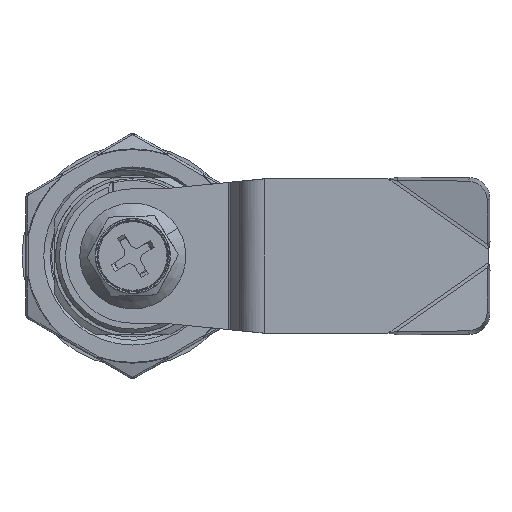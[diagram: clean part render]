
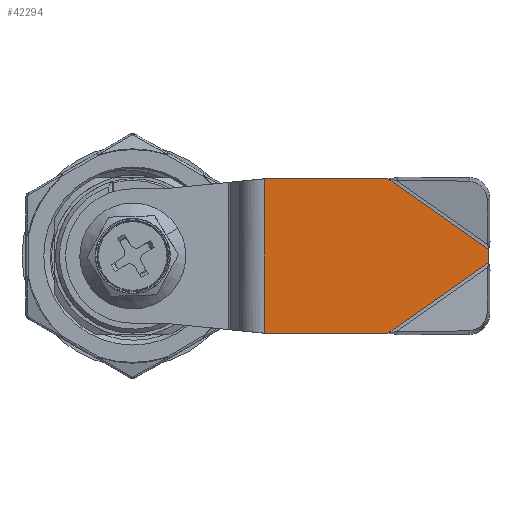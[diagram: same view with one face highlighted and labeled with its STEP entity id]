
A CAD part, front view. The second image highlights one B-rep face of the part: STEP entity #42294.
In plain terms, the highlighted planar face has unit normal (0, -1, 0).
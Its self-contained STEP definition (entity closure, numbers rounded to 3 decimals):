
#11 = LINE ( 'NONE', #3792, #5319 ) ;
#2429 = CARTESIAN_POINT ( 'NONE',  ( 32.252, -10., 9.75 ) ) ;
#2721 = VECTOR ( 'NONE', #26994, 1000. ) ;
#3792 = CARTESIAN_POINT ( 'NONE',  ( 16.621, -10., 9.75 ) ) ;
#3825 = VECTOR ( 'NONE', #17358, 1000. ) ;
#4823 = VERTEX_POINT ( 'NONE', #30909 ) ;
#5319 = VECTOR ( 'NONE', #32278, 1000. ) ;
#5801 = CARTESIAN_POINT ( 'NONE',  ( 49.968, -10., 2.655 ) ) ;
#7441 = VERTEX_POINT ( 'NONE', #30949 ) ;
#8254 = EDGE_CURVE ( 'NONE', #9456, #49539, #21731, .T. ) ;
#9456 = VERTEX_POINT ( 'NONE', #27553 ) ;
#10049 = ORIENTED_EDGE ( 'NONE', *, *, #14010, .F. ) ;
#10199 = DIRECTION ( 'NONE',  ( -1., 0., 0. ) ) ;
#12907 = CARTESIAN_POINT ( 'NONE',  ( 45., -10., 9.75 ) ) ;
#14010 = EDGE_CURVE ( 'NONE', #9456, #7441, #17339, .T. ) ;
#14629 = LINE ( 'NONE', #18925, #2721 ) ;
#16625 = VECTOR ( 'NONE', #50459, 1000. ) ;
#17339 = LINE ( 'NONE', #33209, #33466 ) ;
#17358 = DIRECTION ( 'NONE',  ( -0.819, 0., -0.574 ) ) ;
#18003 = DIRECTION ( 'NONE',  ( 1., 0., 0. ) ) ;
#18925 = CARTESIAN_POINT ( 'NONE',  ( 45., -10., 9.75 ) ) ;
#21208 = ORIENTED_EDGE ( 'NONE', *, *, #42102, .T. ) ;
#21731 = LINE ( 'NONE', #34102, #16625 ) ;
#23824 = EDGE_CURVE ( 'NONE', #7441, #4823, #38308, .T. ) ;
#24734 = VECTOR ( 'NONE', #10199, 1000. ) ;
#25931 = AXIS2_PLACEMENT_3D ( 'NONE', #12907, #50758, #18003 ) ;
#26505 = CARTESIAN_POINT ( 'NONE',  ( 16.621, -10., -9.75 ) ) ;
#26687 = ORIENTED_EDGE ( 'NONE', *, *, #46490, .F. ) ;
#26994 = DIRECTION ( 'NONE',  ( -1., 0., 0. ) ) ;
#27553 = CARTESIAN_POINT ( 'NONE',  ( 45., -10., 0.824 ) ) ;
#28824 = VERTEX_POINT ( 'NONE', #26505 ) ;
#30909 = CARTESIAN_POINT ( 'NONE',  ( 32.252, -10., -9.75 ) ) ;
#30949 = CARTESIAN_POINT ( 'NONE',  ( 45., -10., -0.824 ) ) ;
#31813 = CARTESIAN_POINT ( 'NONE',  ( 16.621, -10., 9.75 ) ) ;
#32278 = DIRECTION ( 'NONE',  ( 0., 0., -1. ) ) ;
#33209 = CARTESIAN_POINT ( 'NONE',  ( 45., -10., 9.75 ) ) ;
#33466 = VECTOR ( 'NONE', #46337, 1000. ) ;
#34102 = CARTESIAN_POINT ( 'NONE',  ( 40.806, -10., 3.76 ) ) ;
#34395 = PLANE ( 'NONE',  #25931 ) ;
#36544 = VERTEX_POINT ( 'NONE', #31813 ) ;
#38308 = LINE ( 'NONE', #5801, #3825 ) ;
#38400 = LINE ( 'NONE', #51823, #24734 ) ;
#39796 = EDGE_LOOP ( 'NONE', ( #10049, #48767, #45459, #21208, #26687, #41542 ) ) ;
#40991 = EDGE_CURVE ( 'NONE', #49539, #36544, #14629, .T. ) ;
#41542 = ORIENTED_EDGE ( 'NONE', *, *, #23824, .F. ) ;
#41650 = FACE_OUTER_BOUND ( 'NONE', #39796, .T. ) ;
#42102 = EDGE_CURVE ( 'NONE', #36544, #28824, #11, .T. ) ;
#42294 = ADVANCED_FACE ( 'NONE', ( #41650 ), #34395, .T. ) ;
#45459 = ORIENTED_EDGE ( 'NONE', *, *, #40991, .T. ) ;
#46337 = DIRECTION ( 'NONE',  ( 0., 0., -1. ) ) ;
#46490 = EDGE_CURVE ( 'NONE', #4823, #28824, #38400, .T. ) ;
#48767 = ORIENTED_EDGE ( 'NONE', *, *, #8254, .T. ) ;
#49539 = VERTEX_POINT ( 'NONE', #2429 ) ;
#50459 = DIRECTION ( 'NONE',  ( -0.819, 0., 0.574 ) ) ;
#50758 = DIRECTION ( 'NONE',  ( 0., -1., 0. ) ) ;
#51823 = CARTESIAN_POINT ( 'NONE',  ( 45., -10., -9.75 ) ) ;
